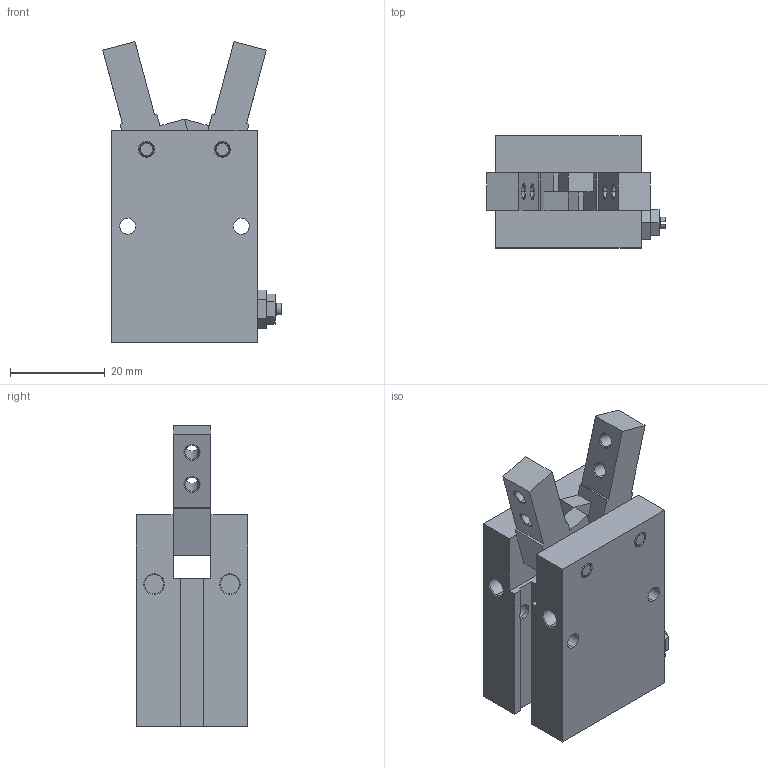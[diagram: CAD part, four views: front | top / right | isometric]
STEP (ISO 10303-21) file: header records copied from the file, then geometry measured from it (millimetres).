
FILE_DESCRIPTION (( 'STEP AP203' ), '1' );
FILE_NAME ('CHC2-16D.STEP', '2010-11-26T12:52:47', ( '.' ), ( '' ), 'SwSTEP 2.0', 'SolidWorks 2009', '' );
FILE_SCHEMA (( 'CONFIG_CONTROL_DESIGN' ));
Length unit declared in the file: millimetre
Products named in the file (3): 1_16D; 2_16; CHC2-16D
Assembly tree (3 placements, depth 2):
  CHC2-16D
    2_16  x2
    1_16D
Bounding box: 37.63 x 23.6 x 63.44 mm (x, y, z)
Volume: 28925.2 mm3; surface area: 11463.7 mm2
Topology: 3 solids, 3 shells, 192 faces, 470 edges, 296 vertices
Faces by surface type: plane 88, cylinder 54, cone 50
Entity records: 5020 total; most frequent: DIRECTION 847, CARTESIAN_POINT 822, ORIENTED_EDGE 778, EDGE_CURVE 389, AXIS2_PLACEMENT_3D 303, VERTEX_POINT 246, VECTOR 241, LINE 241
